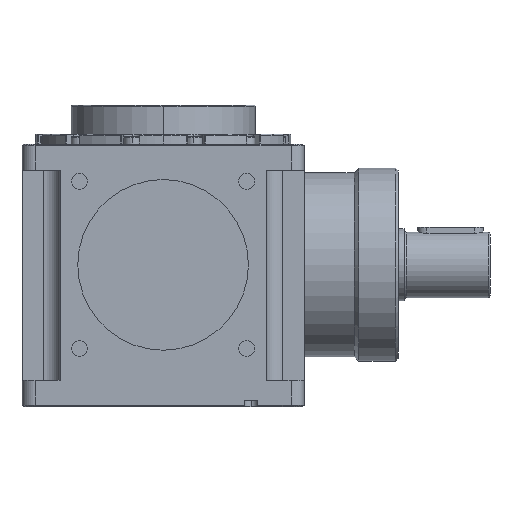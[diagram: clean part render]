
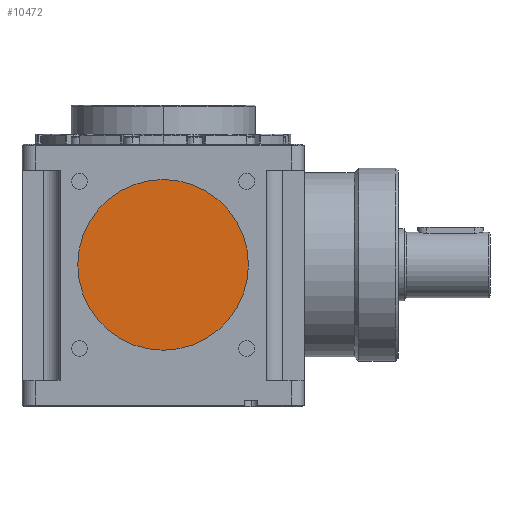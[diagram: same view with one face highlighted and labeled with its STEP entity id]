
A CAD part, left-side view. The second image highlights one B-rep face of the part: STEP entity #10472.
In plain terms, the highlighted planar face has unit normal (-1, 0, 0).
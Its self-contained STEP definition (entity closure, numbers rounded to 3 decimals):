
#69 = EDGE_LOOP ( 'NONE', ( #3947, #16695 ) ) ;
#418 = EDGE_CURVE ( 'NONE', #17942, #15883, #1940, .T. ) ;
#1184 = FACE_OUTER_BOUND ( 'NONE', #69, .T. ) ;
#1940 = CIRCLE ( 'NONE', #4029, 65. ) ;
#3947 = ORIENTED_EDGE ( 'NONE', *, *, #418, .T. ) ;
#4029 = AXIS2_PLACEMENT_3D ( 'NONE', #12999, #7989, #9838 ) ;
#4368 = PLANE ( 'NONE',  #19524 ) ;
#6329 = CARTESIAN_POINT ( 'NONE',  ( -102.5, 0., 0. ) ) ;
#7989 = DIRECTION ( 'NONE',  ( -1., 0., 0. ) ) ;
#9413 = DIRECTION ( 'NONE',  ( 0., -1., 0. ) ) ;
#9838 = DIRECTION ( 'NONE',  ( 0., -1., 0. ) ) ;
#10472 = ADVANCED_FACE ( 'NONE', ( #1184 ), #4368, .T. ) ;
#12999 = CARTESIAN_POINT ( 'NONE',  ( -102.5, 0., 0. ) ) ;
#15719 = EDGE_CURVE ( 'NONE', #15883, #17942, #16962, .T. ) ;
#15883 = VERTEX_POINT ( 'NONE', #19561 ) ;
#16695 = ORIENTED_EDGE ( 'NONE', *, *, #15719, .T. ) ;
#16962 = CIRCLE ( 'NONE', #18002, 65. ) ;
#17068 = DIRECTION ( 'NONE',  ( -1., 0., 0. ) ) ;
#17741 = CARTESIAN_POINT ( 'NONE',  ( -102.5, -65., 0. ) ) ;
#17942 = VERTEX_POINT ( 'NONE', #17741 ) ;
#18002 = AXIS2_PLACEMENT_3D ( 'NONE', #20346, #17068, #18908 ) ;
#18908 = DIRECTION ( 'NONE',  ( 0., -1., 0. ) ) ;
#19524 = AXIS2_PLACEMENT_3D ( 'NONE', #6329, #21155, #9413 ) ;
#19561 = CARTESIAN_POINT ( 'NONE',  ( -102.5, 65., 0. ) ) ;
#20346 = CARTESIAN_POINT ( 'NONE',  ( -102.5, 0., 0. ) ) ;
#21155 = DIRECTION ( 'NONE',  ( -1., 0., 0. ) ) ;
